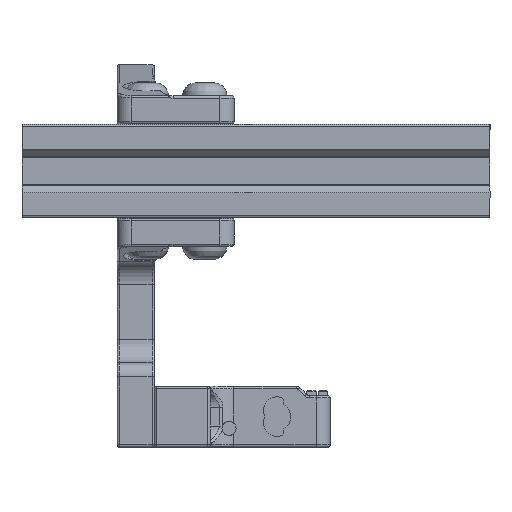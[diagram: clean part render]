
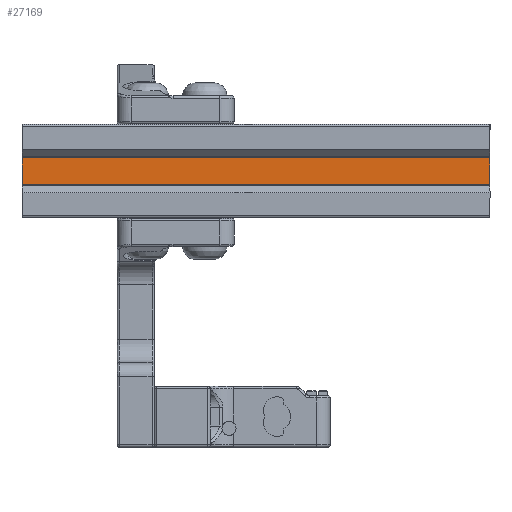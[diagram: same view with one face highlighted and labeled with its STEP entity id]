
A CAD part, front view. The second image highlights one B-rep face of the part: STEP entity #27169.
In plain terms, the highlighted planar face has unit normal (0, -1, 0).
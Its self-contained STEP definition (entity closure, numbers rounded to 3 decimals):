
#2504=PLANE('',#30066);
#4170=LINE('',#104132,#5957);
#4290=LINE('',#104383,#6077);
#4291=LINE('',#104386,#6078);
#4292=LINE('',#104387,#6079);
#5957=VECTOR('',#36651,10.);
#6077=VECTOR('',#36889,10.);
#6078=VECTOR('',#36892,10.);
#6079=VECTOR('',#36893,10.);
#8415=FACE_OUTER_BOUND('',#10107,.T.);
#10107=EDGE_LOOP('',(#25458,#25459,#25460,#25461));
#13451=VERTEX_POINT('',#104129);
#13452=VERTEX_POINT('',#104131);
#13524=VERTEX_POINT('',#104381);
#13525=VERTEX_POINT('',#104385);
#17395=EDGE_CURVE('',#13451,#13452,#4170,.T.);
#17521=EDGE_CURVE('',#13451,#13524,#4290,.T.);
#17522=EDGE_CURVE('',#13525,#13524,#4291,.F.);
#17523=EDGE_CURVE('',#13452,#13525,#4292,.T.);
#25458=ORIENTED_EDGE('',*,*,#17395,.F.);
#25459=ORIENTED_EDGE('',*,*,#17521,.T.);
#25460=ORIENTED_EDGE('',*,*,#17522,.F.);
#25461=ORIENTED_EDGE('',*,*,#17523,.F.);
#27169=ADVANCED_FACE('',(#8415),#2504,.T.);
#30066=AXIS2_PLACEMENT_3D('',#104384,#36890,#36891);
#36651=DIRECTION('',(0.,0.,1.));
#36889=DIRECTION('',(1.,0.,0.));
#36890=DIRECTION('center_axis',(0.,-1.,0.));
#36891=DIRECTION('ref_axis',(0.,0.,-1.));
#36892=DIRECTION('',(0.,0.,1.));
#36893=DIRECTION('',(1.,0.,0.));
#104129=CARTESIAN_POINT('',(-107.175,-113.923,-93.239));
#104131=CARTESIAN_POINT('',(-107.175,-113.923,-87.549));
#104132=CARTESIAN_POINT('',(-107.175,-113.923,-88.972));
#104381=CARTESIAN_POINT('',(-7.175,-113.923,-93.239));
#104383=CARTESIAN_POINT('',(-157.175,-113.923,-93.239));
#104384=CARTESIAN_POINT('Origin',(-157.175,-113.923,-87.549));
#104385=CARTESIAN_POINT('',(-7.175,-113.923,-87.549));
#104386=CARTESIAN_POINT('',(-7.175,-113.923,-88.972));
#104387=CARTESIAN_POINT('',(-157.175,-113.923,-87.549));
